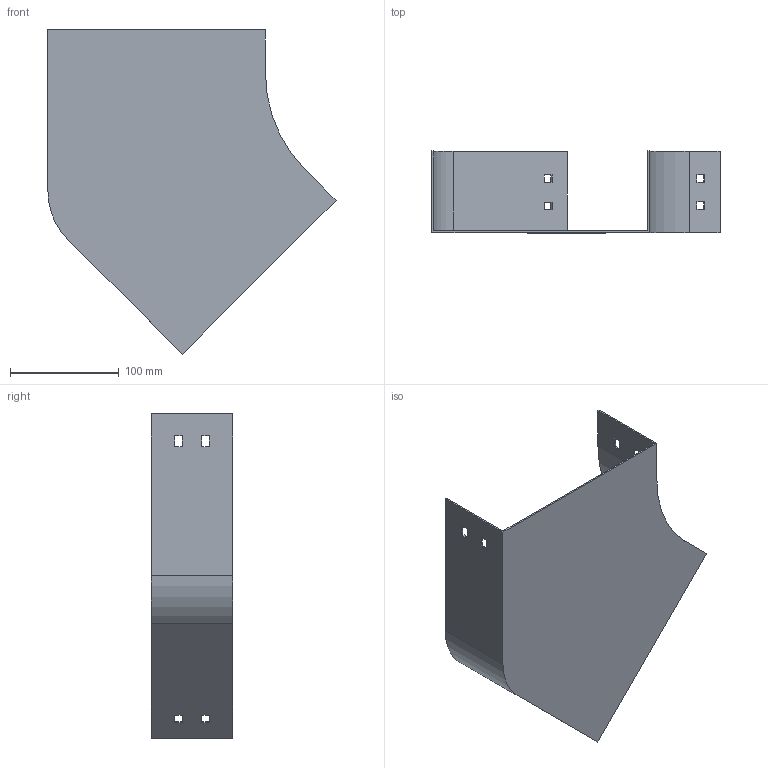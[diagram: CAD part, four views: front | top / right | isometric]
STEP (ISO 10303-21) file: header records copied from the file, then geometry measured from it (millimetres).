
FILE_DESCRIPTION (( 'STEP AP214' ), '1' );
FILE_NAME ('P4_207.step', '2025-07-16T09:19:13', ( '' ), ( '' ), 'SwSTEP 2.0', 'SolidWorks 2023', '' );
FILE_SCHEMA (( 'AUTOMOTIVE_DESIGN' ));
Length unit declared in the file: millimetre
Products named in the file (1): P4_207
Bounding box: 264.9 x 75 x 298.09 mm (x, y, z)
Volume: 137307.9 mm3; surface area: 185313.2 mm2
Topology: 1 solids, 1 shells, 50 faces, 144 edges, 96 vertices
Faces by surface type: plane 46, cylinder 4
Entity records: 1671 total; most frequent: CARTESIAN_POINT 291, ORIENTED_EDGE 288, DIRECTION 254, EDGE_CURVE 144, VECTOR 136, LINE 136, VERTEX_POINT 96, EDGE_LOOP 66
